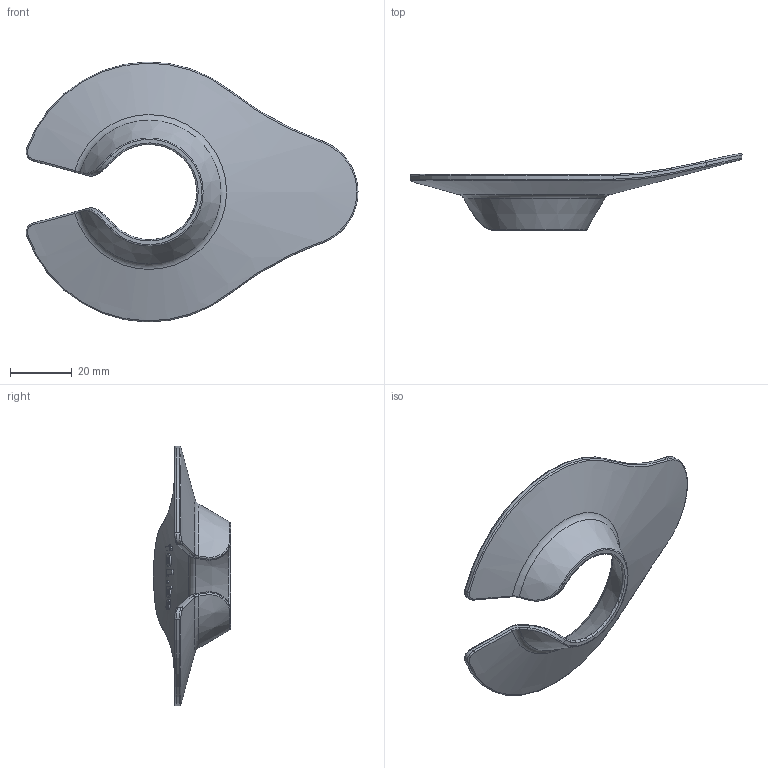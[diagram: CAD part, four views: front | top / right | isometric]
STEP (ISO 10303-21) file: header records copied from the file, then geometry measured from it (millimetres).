
FILE_DESCRIPTION((''),'2;1');
FILE_NAME('V01_AVO_OK_ASM','2025-04-30T15:08:05',('emma'),(''),'CREO PARAMETRIC BY PTC INC, 2021404','CREO PARAMETRIC BY PTC INC, 2021404','');
FILE_SCHEMA(('CONFIG_CONTROL_DESIGN'));
Length unit declared in the file: millimetre
Products named in the file (2): V01_AVO_TEST2_11; V01_AVO_OK_ASM
Assembly tree (1 placements, depth 2):
  V01_AVO_OK_ASM
    V01_AVO_TEST2_11
Bounding box: 107.28 x 24.9 x 83.98 mm (x, y, z)
Volume: 12324.8 mm3; surface area: 13076.9 mm2
Topology: 1 solids, 1 shells, 150 faces, 406 edges, 268 vertices
Faces by surface type: extrusion 68, cylinder 22, bspline 18, plane 18, cone 14, torus 10
Entity records: 7354 total; most frequent: CARTESIAN_POINT 3978, ORIENTED_EDGE 812, DIRECTION 441, EDGE_CURVE 406, B_SPLINE_CURVE_WITH_KNOTS 301, VERTEX_POINT 268, VECTOR 175, EDGE_LOOP 160
